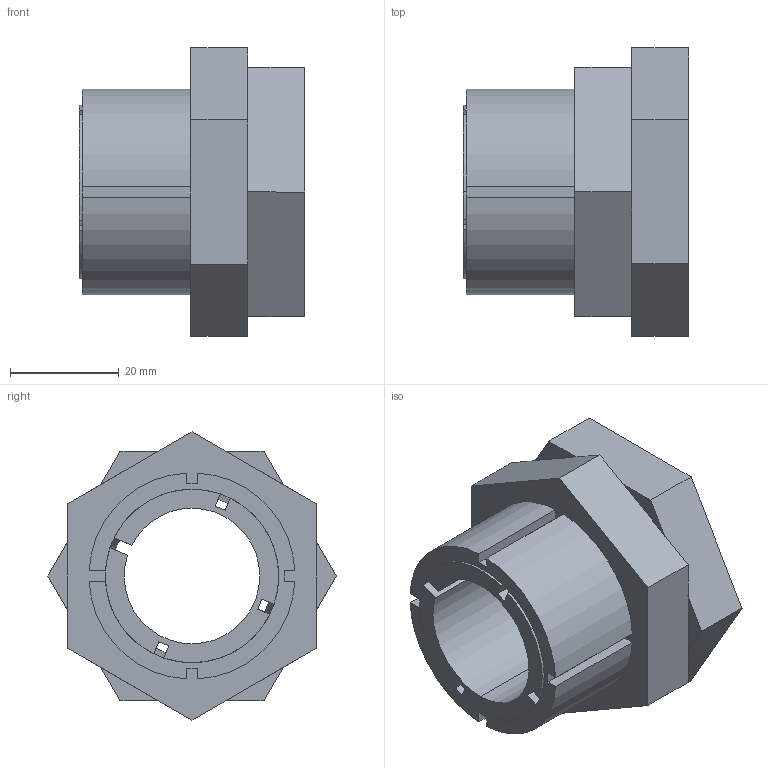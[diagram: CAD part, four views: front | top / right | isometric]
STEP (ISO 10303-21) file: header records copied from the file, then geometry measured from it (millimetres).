
FILE_DESCRIPTION (( 'STEP AP203' ), '1' );
FILE_NAME ('KBS 59 - 25 x 38.STEP', '2015-07-07T21:05:05', ( '' ), ( '' ), 'SwSTEP 2.0', 'SolidWorks 2010', '' );
FILE_SCHEMA (( 'CONFIG_CONTROL_DESIGN' ));
Length unit declared in the file: millimetre
Products named in the file (1): KBS 59 - 25 x 38
Bounding box: 41.5 x 53.12 x 53.12 mm (x, y, z)
Volume: 39827.6 mm3; surface area: 21515.3 mm2
Topology: 3 solids, 3 shells, 78 faces, 204 edges, 132 vertices
Faces by surface type: plane 56, cylinder 14, cone 8
Entity records: 2469 total; most frequent: CARTESIAN_POINT 451, ORIENTED_EDGE 408, DIRECTION 396, EDGE_CURVE 204, VECTOR 150, LINE 150, VERTEX_POINT 132, AXIS2_PLACEMENT_3D 123
